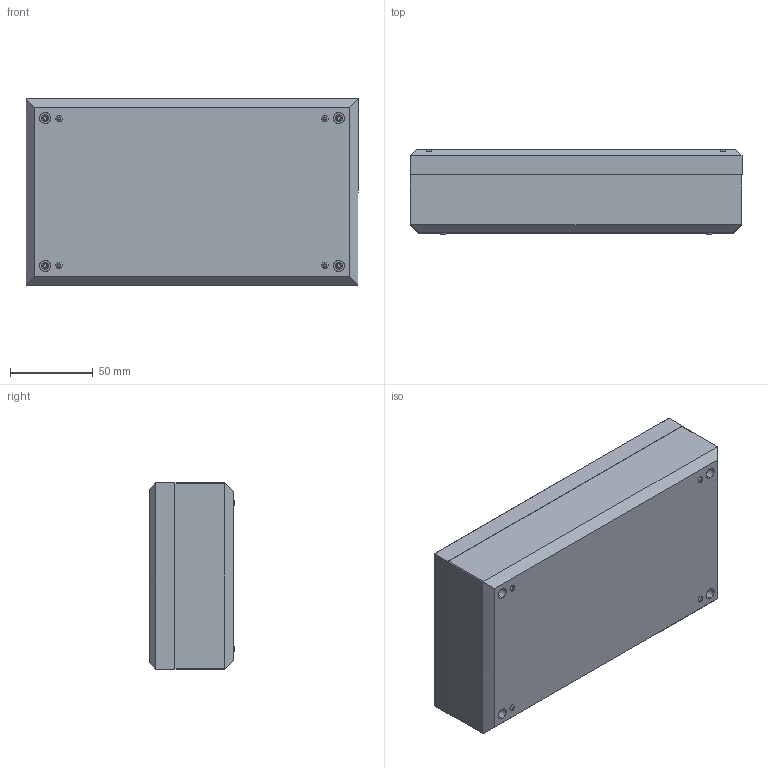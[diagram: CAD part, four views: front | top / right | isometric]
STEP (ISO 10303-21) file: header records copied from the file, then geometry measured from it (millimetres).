
FILE_DESCRIPTION (( 'STEP AP214' ), '1' );
FILE_NAME ('Conjunt PP63B.STEP', '2017-12-15T09:43:12', ( 'aaa' ), ( '' ), 'SwSTEP 2.0', 'SolidWorks 2013', '' );
FILE_SCHEMA (( 'AUTOMOTIVE_DESIGN' ));
Length unit declared in the file: millimetre
Products named in the file (7): Metrico 3 x 18 PP63B; Tapeta embellidor PP63B; Fijacion tornillo PP63B; Cargol 2,1x6,5 PP63B; Tapa PP63B; Cuerpo PP63B; Conjunt PP63B
Assembly tree (18 placements, depth 2):
  Conjunt PP63B
    Cuerpo PP63B
    Tapa PP63B
    Cargol 2,1x6,5 PP63B  x4
    Fijacion tornillo PP63B  x4
    Tapeta embellidor PP63B  x4
    Metrico 3 x 18 PP63B  x4
Bounding box: 200 x 51.5 x 112.2 mm (x, y, z)
Volume: 224613.2 mm3; surface area: 163881.8 mm2
Topology: 23 solids, 23 shells, 1313 faces, 2936 edges, 1732 vertices
Faces by surface type: cone 648, plane 385, cylinder 256, torus 24
Entity records: 16997 total; most frequent: DIRECTION 3064, CARTESIAN_POINT 2882, ORIENTED_EDGE 2700, EDGE_CURVE 1350, AXIS2_PLACEMENT_3D 1135, VERTEX_POINT 841, LINE 794, VECTOR 794
